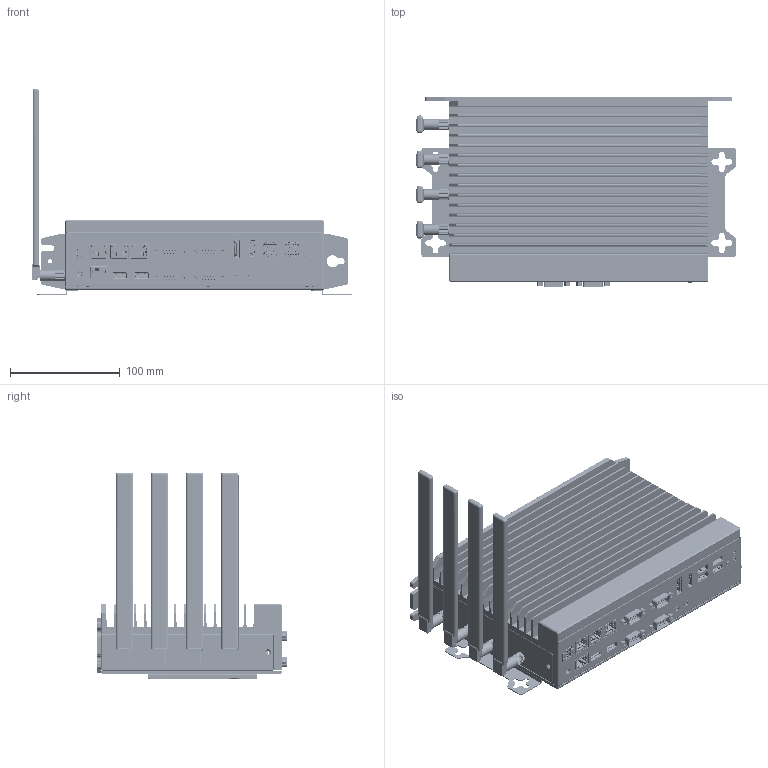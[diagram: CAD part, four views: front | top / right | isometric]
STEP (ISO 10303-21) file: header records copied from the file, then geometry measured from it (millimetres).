
FILE_DESCRIPTION((''),'2;1');
FILE_NAME('00_ALL_S24-TGLU-BOX29_ASM_ASM','2025-04-16T11:28:32',('Perry'),(''),'CREO PARAMETRIC BY PTC INC, 2022073','CREO PARAMETRIC BY PTC INC, 2022073','');
FILE_SCHEMA(('AUTOMOTIVE_DESIGN { 1 0 10303 214 1 1 1 1 }'));
Products named in the file (47): 02_SECTION_BAR_S24-TGLU-BOX29_8; 02_SECTION_BAR_S24-TGLU-BOX29_A_ASM; 01_FARMER_S24-TGLU-BOX29_89; 02_PANEL_S24-TGLU-BOX29_89; 02_BACKBOARD_S24-TGLU-BOX29_22; SUPPORT-SPCC_6; 01_HANGING_S24-TGLU-BOX29_11; 01_ME_S24-TGLU-BOX29_ASM_58_ASM; 90-PHOENIX-2KF014RM-3_5-2X2P_10; 90-DP-62R020S-30MT3P1001-FREE_1; 90_HDMI_51R019S-FREEPORT_10_1; 90_HDMI_51R019S-FREEPORT_10_2; 90_HDMI_51R019S-FREEPORT_10_3; 90_HDMI_51R019S-FREEPORT_10_4; 90_HDMI_51R019S-FREEPORT_10_5; 90_HDMI_51R019S-FREEPORT_10_6; 90_HDMI_51R019S-FREEPORT_10_7; 90_HDMI_51R019S-FREEPORT_10_8; 90_HDMI_51R019S-FREEPORT_10_ASM; 90-D-SUB-9RB508-4-G-F-EAST_11; 90-USB-AUSB0289-K001C-LOTES_10; 90_USB2_62900066A-NEW-ACUTE_10; 90-SW-TS024HMXP-S01-YICUAN_10; 90_RJ45_HT31-5609-081B-NHAIT_10; LED-1_10; 90_PB02-5H1RFL-X-X-S23_6; 90_DDR4_STD_H92_FOX_ASM_ASM_10_ASM; 1111_1_1_10; ASM0001_ASM_1_ASM_1_ASM_13_ASM; AP-APCI0615_20200325_ASM_1_ASM__ASM; CNTR_USB30_C-1932258_TYCO_11; CNTR_AUDIO_63000347_NEWACUTE_2; 90_RJ45_MJ88B-B011_FREEPORT_5; 01_SUXILIARY-S24-TGLU-BOX29_ASM_ASM; HS-CPU-TGLU_ASM_4_ASM_2_ASM_7_ASM; HS-TGLU-0228_ASM_1_ASM_1_ASM_7_ASM; HS-IC-0403_ASM_ASM_1_ASM_7_ASM; HS-CPU-HMI03-032112_ASM_6_ASM_7_ASM; HS-CPU-HMI03-032112_ASM_ASM_7_ASM; HS-HMI02-1029_4_ASM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
Assembly tree (57 placements, depth 7):
  00_ALL_S24-TGLU-BOX29_ASM_ASM
    00_ALL_S24-TGLU-BOX29_ASM_144_ASM
      01_ME_S24-TGLU-BOX29_ASM_58_ASM
        02_SECTION_BAR_S24-TGLU-BOX29_A_ASM
          02_SECTION_BAR_S24-TGLU-BOX29_8
        01_FARMER_S24-TGLU-BOX29_89
        02_PANEL_S24-TGLU-BOX29_89
        02_BACKBOARD_S24-TGLU-BOX29_22
        SUPPORT-SPCC_6  x2
        01_HANGING_S24-TGLU-BOX29_11
      01-M24-TGLU-HMI01_ASM_94_ASM
        90-PHOENIX-2KF014RM-3_5-2X2P_10
        90-DP-62R020S-30MT3P1001-FREE_1
        90_HDMI_51R019S-FREEPORT_10_ASM
          90_HDMI_51R019S-FREEPORT_10_1
          90_HDMI_51R019S-FREEPORT_10_2
          90_HDMI_51R019S-FREEPORT_10_3
          90_HDMI_51R019S-FREEPORT_10_4
          90_HDMI_51R019S-FREEPORT_10_5
          90_HDMI_51R019S-FREEPORT_10_6
          90_HDMI_51R019S-FREEPORT_10_7
          90_HDMI_51R019S-FREEPORT_10_8
        90-D-SUB-9RB508-4-G-F-EAST_11  x2
        90-USB-AUSB0289-K001C-LOTES_10
        90_USB2_62900066A-NEW-ACUTE_10
        90-SW-TS024HMXP-S01-YICUAN_10
        90_RJ45_HT31-5609-081B-NHAIT_10  x3
        LED-1_10
        90_PB02-5H1RFL-X-X-S23_6
        90_DDR4_STD_H92_FOX_ASM_ASM_10_ASM
        AP-APCI0615_20200325_ASM_1_ASM__ASM
          ASM0001_ASM_1_ASM_1_ASM_13_ASM
            1111_1_1_10
        01_SUXILIARY-S24-TGLU-BOX29_ASM_ASM
          90-D-SUB-9RB508-4-G-F-EAST_11  x2
          CNTR_USB30_C-1932258_TYCO_11  x2
          CNTR_AUDIO_63000347_NEWACUTE_2  x2
          90_RJ45_MJ88B-B011_FREEPORT_5
        HS-CPU-HMI03-032112_ASM_ASM_7_ASM
          HS-CPU-HMI03-032112_ASM_6_ASM_7_ASM
            HS-CPU-TGLU_ASM_4_ASM_2_ASM_7_ASM
            HS-IC-0403_ASM_ASM_1_ASM_7_ASM
              HS-TGLU-0228_ASM_1_ASM_1_ASM_7_ASM
        HS-HMI02-1029_4_ASM
      WIFI_ANTENNA_1
      90_ANT_GW02_1_ASM  x4
        90_ANT_GW02_1_1
        90_ANT_GW02_1_2
Bounding box: 292.1 x 174 x 188.5 mm (x, y, z)
Volume: 768611.5 mm3; surface area: 529950.6 mm2
Topology: 43 solids, 73 shells, 17569 faces, 49141 edges, 31450 vertices
Faces by surface type: plane 11568, cylinder 4807, bspline 485, torus 274, cone 191, sphere 119, extrusion 113, revolution 12
Entity records: 530320 total; most frequent: CARTESIAN_POINT 106881, ORIENTED_EDGE 75040, DIRECTION 67933, EDGE_CURVE 37567, VECTOR 28809, LINE 28704, VERTEX_POINT 24088, AXIS2_PLACEMENT_3D 19556
